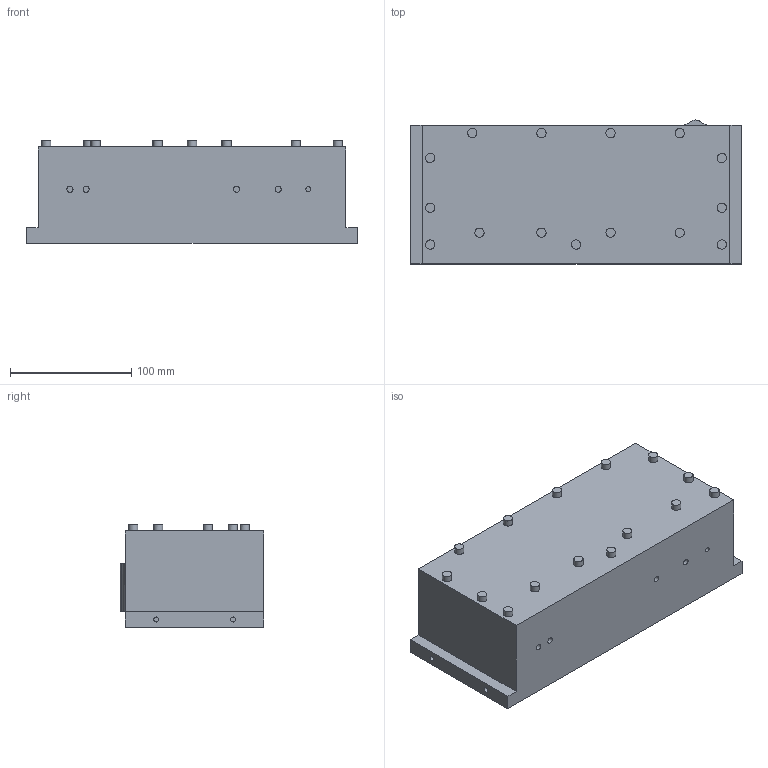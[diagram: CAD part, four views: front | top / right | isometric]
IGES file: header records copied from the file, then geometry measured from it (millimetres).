
Global section: file name: /Users/Pablo/Desktop/3dmaker.igs; native system: VectorWorks; preprocessor: HarmonyWare IGES v1.6.3; date: 20120321.164218; units: millimetre
Bounding box: 273.05 x 118.75 x 84.45 mm (x, y, z)
Surface area: 126609.8 mm2 (no closed solid volume)
Topology: 0 solids, 0 shells, 63 faces, 504 edges, 456 vertices
Faces by surface type: bspline 63
